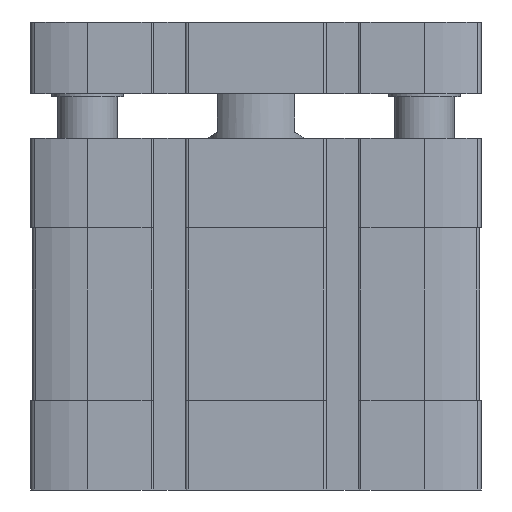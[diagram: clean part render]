
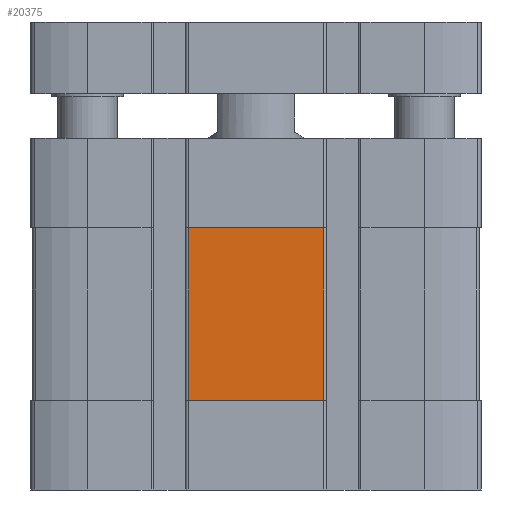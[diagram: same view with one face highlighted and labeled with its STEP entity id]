
A CAD part, left-side view. The second image highlights one B-rep face of the part: STEP entity #20375.
In plain terms, the highlighted planar face has unit normal (-1, 0, 0) as drawn and (0, 1, 0) by its records, which use the part's own axes.
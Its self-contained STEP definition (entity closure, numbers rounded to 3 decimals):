
#34 = VERTEX_POINT ( 'NONE', #5546 ) ;
#1671 = DIRECTION ( 'NONE',  ( 0., 0., 1. ) ) ;
#2562 = LINE ( 'NONE', #17753, #12672 ) ;
#2614 = CARTESIAN_POINT ( 'NONE',  ( 11.4, 37.5, -44. ) ) ;
#2617 = EDGE_LOOP ( 'NONE', ( #5625, #4042, #18182, #18210 ) ) ;
#3064 = CARTESIAN_POINT ( 'NONE',  ( -11.4, 37.5, -15. ) ) ;
#4042 = ORIENTED_EDGE ( 'NONE', *, *, #12683, .T. ) ;
#4115 = DIRECTION ( 'NONE',  ( -1., 0., 0. ) ) ;
#4382 = EDGE_CURVE ( 'NONE', #14555, #15377, #14028, .T. ) ;
#4453 = CARTESIAN_POINT ( 'NONE',  ( 11.4, 37.5, -44. ) ) ;
#5151 = EDGE_CURVE ( 'NONE', #20275, #34, #7273, .T. ) ;
#5275 = DIRECTION ( 'NONE',  ( 0., 0., 1. ) ) ;
#5321 = DIRECTION ( 'NONE',  ( 1., 0., 0. ) ) ;
#5546 = CARTESIAN_POINT ( 'NONE',  ( 11.4, 37.5, -15. ) ) ;
#5625 = ORIENTED_EDGE ( 'NONE', *, *, #4382, .T. ) ;
#7273 = LINE ( 'NONE', #16025, #16209 ) ;
#8074 = DIRECTION ( 'NONE',  ( 0., 0., -1. ) ) ;
#10027 = EDGE_CURVE ( 'NONE', #34, #14555, #22210, .T. ) ;
#10606 = PLANE ( 'NONE',  #17353 ) ;
#12374 = DIRECTION ( 'NONE',  ( 0., 1., 0. ) ) ;
#12672 = VECTOR ( 'NONE', #5275, 1000. ) ;
#12683 = EDGE_CURVE ( 'NONE', #15377, #20275, #2562, .T. ) ;
#14028 = LINE ( 'NONE', #21920, #18725 ) ;
#14087 = CARTESIAN_POINT ( 'NONE',  ( 11.4, 37.5, -44. ) ) ;
#14555 = VERTEX_POINT ( 'NONE', #2614 ) ;
#15377 = VERTEX_POINT ( 'NONE', #17205 ) ;
#16025 = CARTESIAN_POINT ( 'NONE',  ( 0., 37.5, -15. ) ) ;
#16209 = VECTOR ( 'NONE', #5321, 1000. ) ;
#16354 = VECTOR ( 'NONE', #8074, 1000. ) ;
#17205 = CARTESIAN_POINT ( 'NONE',  ( -11.4, 37.5, -44. ) ) ;
#17353 = AXIS2_PLACEMENT_3D ( 'NONE', #14087, #12374, #1671 ) ;
#17753 = CARTESIAN_POINT ( 'NONE',  ( -11.4, 37.5, -44. ) ) ;
#18182 = ORIENTED_EDGE ( 'NONE', *, *, #5151, .T. ) ;
#18210 = ORIENTED_EDGE ( 'NONE', *, *, #10027, .T. ) ;
#18725 = VECTOR ( 'NONE', #4115, 1000. ) ;
#20275 = VERTEX_POINT ( 'NONE', #3064 ) ;
#20375 = ADVANCED_FACE ( 'NONE', ( #20442 ), #10606, .T. ) ;
#20442 = FACE_OUTER_BOUND ( 'NONE', #2617, .T. ) ;
#21920 = CARTESIAN_POINT ( 'NONE',  ( 11.4, 37.5, -44. ) ) ;
#22210 = LINE ( 'NONE', #4453, #16354 ) ;
